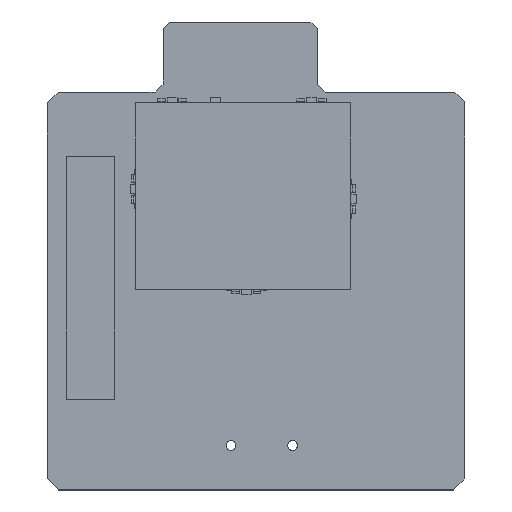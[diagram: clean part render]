
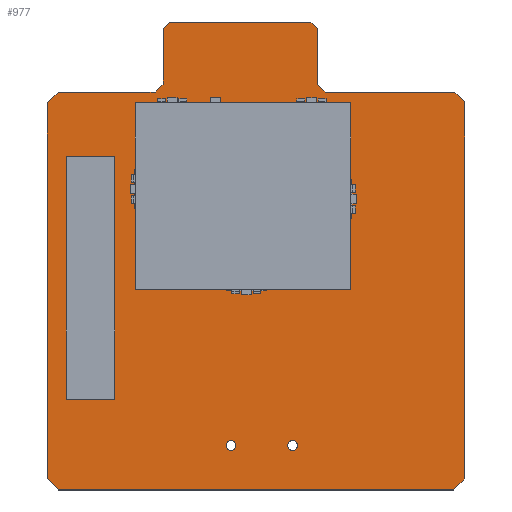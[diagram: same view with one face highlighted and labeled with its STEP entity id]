
A CAD part, top view. The second image highlights one B-rep face of the part: STEP entity #977.
In plain terms, the highlighted planar face has unit normal (0, 0, 1).
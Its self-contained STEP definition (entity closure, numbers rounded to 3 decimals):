
#296 = VERTEX_POINT('',#297);
#297 = CARTESIAN_POINT('',(0.,1.139,1.6));
#303 = EDGE_CURVE('',#296,#304,#306,.T.);
#304 = VERTEX_POINT('',#305);
#305 = CARTESIAN_POINT('',(0.,39.878,1.6));
#306 = LINE('',#307,#308);
#307 = CARTESIAN_POINT('',(0.,1.139,1.6));
#308 = VECTOR('',#309,1.);
#309 = DIRECTION('',(0.,1.,0.));
#334 = EDGE_CURVE('',#304,#335,#337,.T.);
#335 = VERTEX_POINT('',#336);
#336 = CARTESIAN_POINT('',(1.122,41.,1.6));
#337 = LINE('',#338,#339);
#338 = CARTESIAN_POINT('',(0.,39.878,1.6));
#339 = VECTOR('',#340,1.);
#340 = DIRECTION('',(0.707,0.707,0.));
#365 = EDGE_CURVE('',#335,#366,#368,.T.);
#366 = VERTEX_POINT('',#367);
#367 = CARTESIAN_POINT('',(8.682,41.001,1.6));
#368 = LINE('',#369,#370);
#369 = CARTESIAN_POINT('',(1.122,41.,1.6));
#370 = VECTOR('',#371,1.);
#371 = DIRECTION('',(1.,0.,0.));
#396 = EDGE_CURVE('',#366,#397,#399,.T.);
#397 = VERTEX_POINT('',#398);
#398 = CARTESIAN_POINT('',(11.106,41.001,1.6));
#399 = LINE('',#400,#401);
#400 = CARTESIAN_POINT('',(8.682,41.001,1.6));
#401 = VECTOR('',#402,1.);
#402 = DIRECTION('',(1.,0.,0.));
#427 = EDGE_CURVE('',#397,#428,#430,.T.);
#428 = VERTEX_POINT('',#429);
#429 = CARTESIAN_POINT('',(11.926,41.822,1.6));
#430 = LINE('',#431,#432);
#431 = CARTESIAN_POINT('',(11.106,41.001,1.6));
#432 = VECTOR('',#433,1.);
#433 = DIRECTION('',(0.707,0.708,0.));
#458 = EDGE_CURVE('',#428,#459,#461,.T.);
#459 = VERTEX_POINT('',#460);
#460 = CARTESIAN_POINT('',(11.926,47.58,1.6));
#461 = LINE('',#462,#463);
#462 = CARTESIAN_POINT('',(11.926,41.822,1.6));
#463 = VECTOR('',#464,1.);
#464 = DIRECTION('',(0.,1.,0.));
#489 = EDGE_CURVE('',#459,#490,#492,.T.);
#490 = VERTEX_POINT('',#491);
#491 = CARTESIAN_POINT('',(12.561,48.215,1.6));
#492 = LINE('',#493,#494);
#493 = CARTESIAN_POINT('',(11.926,47.58,1.6));
#494 = VECTOR('',#495,1.);
#495 = DIRECTION('',(0.707,0.707,0.));
#520 = EDGE_CURVE('',#490,#521,#523,.T.);
#521 = VERTEX_POINT('',#522);
#522 = CARTESIAN_POINT('',(27.166,48.215,1.6));
#523 = LINE('',#524,#525);
#524 = CARTESIAN_POINT('',(12.561,48.215,1.6));
#525 = VECTOR('',#526,1.);
#526 = DIRECTION('',(1.,0.,0.));
#551 = EDGE_CURVE('',#521,#552,#554,.T.);
#552 = VERTEX_POINT('',#553);
#553 = CARTESIAN_POINT('',(27.801,47.58,1.6));
#554 = LINE('',#555,#556);
#555 = CARTESIAN_POINT('',(27.166,48.215,1.6));
#556 = VECTOR('',#557,1.);
#557 = DIRECTION('',(0.707,-0.707,0.));
#582 = EDGE_CURVE('',#552,#583,#585,.T.);
#583 = VERTEX_POINT('',#584);
#584 = CARTESIAN_POINT('',(27.801,41.82,1.6));
#585 = LINE('',#586,#587);
#586 = CARTESIAN_POINT('',(27.801,47.58,1.6));
#587 = VECTOR('',#588,1.);
#588 = DIRECTION('',(0.,-1.,0.));
#613 = EDGE_CURVE('',#583,#614,#616,.T.);
#614 = VERTEX_POINT('',#615);
#615 = CARTESIAN_POINT('',(28.621,41.,1.6));
#616 = LINE('',#617,#618);
#617 = CARTESIAN_POINT('',(27.801,41.82,1.6));
#618 = VECTOR('',#619,1.);
#619 = DIRECTION('',(0.707,-0.707,0.));
#644 = EDGE_CURVE('',#614,#645,#647,.T.);
#645 = VERTEX_POINT('',#646);
#646 = CARTESIAN_POINT('',(36.301,40.995,1.6));
#647 = LINE('',#648,#649);
#648 = CARTESIAN_POINT('',(28.621,41.,1.6));
#649 = VECTOR('',#650,1.);
#650 = DIRECTION('',(1.,-0.001,0.));
#675 = EDGE_CURVE('',#645,#676,#678,.T.);
#676 = VERTEX_POINT('',#677);
#677 = CARTESIAN_POINT('',(41.987,40.995,1.6));
#678 = LINE('',#679,#680);
#679 = CARTESIAN_POINT('',(36.301,40.995,1.6));
#680 = VECTOR('',#681,1.);
#681 = DIRECTION('',(1.,0.,0.));
#706 = EDGE_CURVE('',#676,#707,#709,.T.);
#707 = VERTEX_POINT('',#708);
#708 = CARTESIAN_POINT('',(43.,39.982,1.6));
#709 = LINE('',#710,#711);
#710 = CARTESIAN_POINT('',(41.987,40.995,1.6));
#711 = VECTOR('',#712,1.);
#712 = DIRECTION('',(0.707,-0.707,0.));
#737 = EDGE_CURVE('',#707,#738,#740,.T.);
#738 = VERTEX_POINT('',#739);
#739 = CARTESIAN_POINT('',(43.001,1.141,1.6));
#740 = LINE('',#741,#742);
#741 = CARTESIAN_POINT('',(43.,39.982,1.6));
#742 = VECTOR('',#743,1.);
#743 = DIRECTION('',(0.,-1.,0.));
#768 = EDGE_CURVE('',#738,#769,#771,.T.);
#769 = VERTEX_POINT('',#770);
#770 = CARTESIAN_POINT('',(42.504,0.647,1.6));
#771 = LINE('',#772,#773);
#772 = CARTESIAN_POINT('',(43.001,1.141,1.6));
#773 = VECTOR('',#774,1.);
#774 = DIRECTION('',(-0.709,-0.705,0.));
#799 = EDGE_CURVE('',#769,#800,#802,.T.);
#800 = VERTEX_POINT('',#801);
#801 = CARTESIAN_POINT('',(41.852,0.,1.6));
#802 = LINE('',#803,#804);
#803 = CARTESIAN_POINT('',(42.504,0.647,1.6));
#804 = VECTOR('',#805,1.);
#805 = DIRECTION('',(-0.71,-0.704,0.));
#830 = EDGE_CURVE('',#800,#831,#833,.T.);
#831 = VERTEX_POINT('',#832);
#832 = CARTESIAN_POINT('',(1.139,0.,1.6));
#833 = LINE('',#834,#835);
#834 = CARTESIAN_POINT('',(41.852,0.,1.6));
#835 = VECTOR('',#836,1.);
#836 = DIRECTION('',(-1.,0.,0.));
#861 = EDGE_CURVE('',#831,#296,#862,.T.);
#862 = LINE('',#863,#864);
#863 = CARTESIAN_POINT('',(1.139,0.,1.6));
#864 = VECTOR('',#865,1.);
#865 = DIRECTION('',(-0.707,0.707,0.));
#885 = VERTEX_POINT('',#886);
#886 = CARTESIAN_POINT('',(19.426,4.579,1.6));
#892 = EDGE_CURVE('',#885,#885,#893,.T.);
#893 = CIRCLE('',#894,0.5);
#894 = AXIS2_PLACEMENT_3D('',#895,#896,#897);
#895 = CARTESIAN_POINT('',(18.926,4.579,1.6));
#896 = DIRECTION('',(0.,0.,1.));
#897 = DIRECTION('',(1.,0.,-0.));
#918 = VERTEX_POINT('',#919);
#919 = CARTESIAN_POINT('',(25.776,4.579,1.6));
#925 = EDGE_CURVE('',#918,#918,#926,.T.);
#926 = CIRCLE('',#927,0.5);
#927 = AXIS2_PLACEMENT_3D('',#928,#929,#930);
#928 = CARTESIAN_POINT('',(25.276,4.579,1.6));
#929 = DIRECTION('',(0.,0.,1.));
#930 = DIRECTION('',(1.,0.,-0.));
#977 = ADVANCED_FACE('',(#978,#999,#1002),#1005,.F.);
#978 = FACE_BOUND('',#979,.F.);
#979 = EDGE_LOOP('',(#980,#981,#982,#983,#984,#985,#986,#987,#988,#989,
    #990,#991,#992,#993,#994,#995,#996,#997,#998));
#980 = ORIENTED_EDGE('',*,*,#303,.T.);
#981 = ORIENTED_EDGE('',*,*,#334,.T.);
#982 = ORIENTED_EDGE('',*,*,#365,.T.);
#983 = ORIENTED_EDGE('',*,*,#396,.T.);
#984 = ORIENTED_EDGE('',*,*,#427,.T.);
#985 = ORIENTED_EDGE('',*,*,#458,.T.);
#986 = ORIENTED_EDGE('',*,*,#489,.T.);
#987 = ORIENTED_EDGE('',*,*,#520,.T.);
#988 = ORIENTED_EDGE('',*,*,#551,.T.);
#989 = ORIENTED_EDGE('',*,*,#582,.T.);
#990 = ORIENTED_EDGE('',*,*,#613,.T.);
#991 = ORIENTED_EDGE('',*,*,#644,.T.);
#992 = ORIENTED_EDGE('',*,*,#675,.T.);
#993 = ORIENTED_EDGE('',*,*,#706,.T.);
#994 = ORIENTED_EDGE('',*,*,#737,.T.);
#995 = ORIENTED_EDGE('',*,*,#768,.T.);
#996 = ORIENTED_EDGE('',*,*,#799,.T.);
#997 = ORIENTED_EDGE('',*,*,#830,.T.);
#998 = ORIENTED_EDGE('',*,*,#861,.T.);
#999 = FACE_BOUND('',#1000,.F.);
#1000 = EDGE_LOOP('',(#1001));
#1001 = ORIENTED_EDGE('',*,*,#892,.T.);
#1002 = FACE_BOUND('',#1003,.F.);
#1003 = EDGE_LOOP('',(#1004));
#1004 = ORIENTED_EDGE('',*,*,#925,.T.);
#1005 = PLANE('',#1006);
#1006 = AXIS2_PLACEMENT_3D('',#1007,#1008,#1009);
#1007 = CARTESIAN_POINT('',(21.39,22.88,1.6));
#1008 = DIRECTION('',(-0.,-0.,-1.));
#1009 = DIRECTION('',(-1.,0.,0.));
